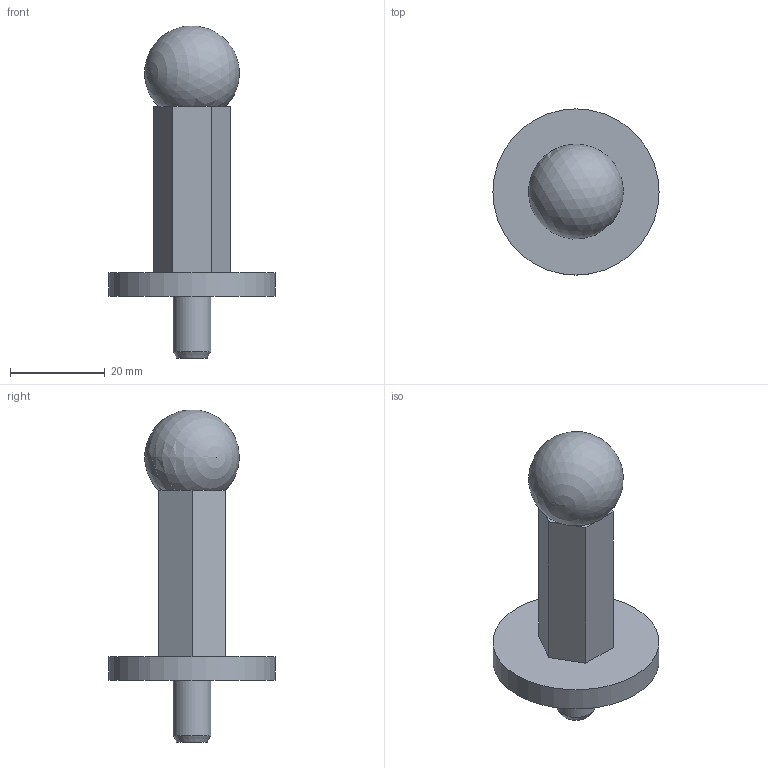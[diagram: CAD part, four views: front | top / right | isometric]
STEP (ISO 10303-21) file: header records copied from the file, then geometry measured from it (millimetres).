
FILE_DESCRIPTION(/* description */ (''),/* implementation_level */ '2;1');
FILE_NAME(/* name */ 'C:\Local Work Area\Progetti\AP\CALIBRI\20.XX 21.XX 22.XX SFERE\21.03.stp',/* time_stamp */ '2020-10-21T16:20:40+02:00',/* author */ ('CAD5'),/* organization */ (''),/* preprocessor_version */ 'ST-DEVELOPER v17.2',/* originating_system */ 'Autodesk Inventor 2019',/* authorisation */ '');
FILE_SCHEMA (('AUTOMOTIVE_DESIGN { 1 0 10303 214 3 1 1 }'));
Length unit declared in the file: millimetre
Products named in the file (6): 21.03; 21.01-A; 22.01-A; UNI 5923 M8 x 25; UNI 5923 M8 x 30; 20.03-A
Assembly tree (5 placements, depth 2):
  21.03
    21.01-A
    22.01-A
    UNI 5923 M8 x 25
    UNI 5923 M8 x 30
    20.03-A
Bounding box: 35 x 35 x 69.93 mm (x, y, z)
Volume: 15178.3 mm3; surface area: 8395.7 mm2
Topology: 5 solids, 5 shells, 47 faces, 119 edges, 80 vertices
Faces by surface type: plane 32, cone 8, cylinder 6, sphere 1
Full cylindrical faces by diameter (mm): 6.647 x2, 7.9 x1, 8 x2, 35 x1
Entity records: 1617 total; most frequent: CARTESIAN_POINT 294, DIRECTION 240, ORIENTED_EDGE 228, EDGE_CURVE 114, AXIS2_PLACEMENT_3D 89, VERTEX_POINT 80, LINE 62, VECTOR 62
